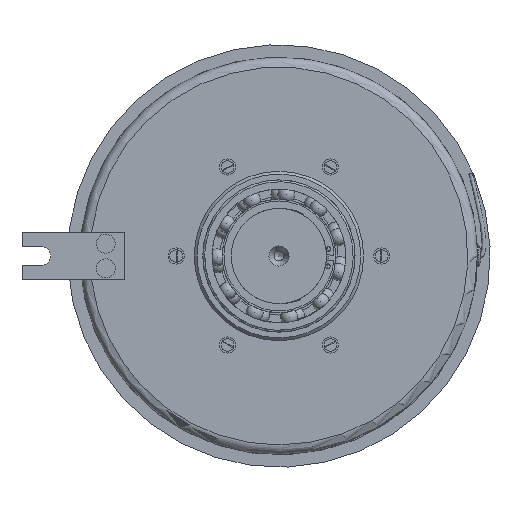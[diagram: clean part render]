
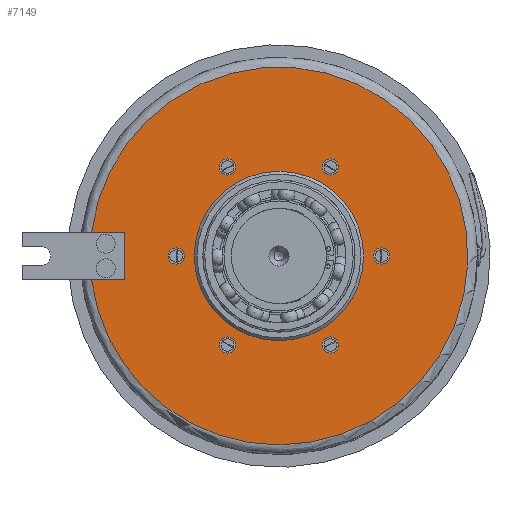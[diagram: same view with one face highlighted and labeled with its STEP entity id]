
A CAD part, left-side view. The second image highlights one B-rep face of the part: STEP entity #7149.
In plain terms, the highlighted planar face has unit normal (-1, 0, 0).
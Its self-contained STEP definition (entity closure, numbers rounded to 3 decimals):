
#121=FACE_BOUND('',#1666,.T.);
#122=FACE_BOUND('',#1667,.T.);
#123=FACE_BOUND('',#1668,.T.);
#124=FACE_BOUND('',#1669,.T.);
#125=FACE_BOUND('',#1670,.T.);
#126=FACE_BOUND('',#1671,.T.);
#127=FACE_BOUND('',#1672,.T.);
#283=LINE('',#11187,#556);
#300=LINE('',#11226,#573);
#304=LINE('',#11232,#577);
#556=VECTOR('',#8705,10.);
#573=VECTOR('',#8738,10.);
#577=VECTOR('',#8744,10.);
#839=PLANE('',#7651);
#1237=FACE_OUTER_BOUND('',#1665,.T.);
#1665=EDGE_LOOP('',(#5024,#5025,#5026,#5027,#5028));
#1666=EDGE_LOOP('',(#5029));
#1667=EDGE_LOOP('',(#5030));
#1668=EDGE_LOOP('',(#5031));
#1669=EDGE_LOOP('',(#5032));
#1670=EDGE_LOOP('',(#5033));
#1671=EDGE_LOOP('',(#5034));
#1672=EDGE_LOOP('',(#5035));
#2450=CIRCLE('',#7649,99.25);
#2451=CIRCLE('',#7650,99.25);
#2452=CIRCLE('',#7652,44.5);
#2453=CIRCLE('',#7653,4.25);
#2454=CIRCLE('',#7654,4.25);
#2455=CIRCLE('',#7655,4.25);
#2456=CIRCLE('',#7656,4.25);
#2457=CIRCLE('',#7657,4.25);
#2458=CIRCLE('',#7658,4.25);
#3060=VERTEX_POINT('',#11184);
#3061=VERTEX_POINT('',#11186);
#3074=VERTEX_POINT('',#11224);
#3075=VERTEX_POINT('',#11225);
#3092=VERTEX_POINT('',#11305);
#3093=VERTEX_POINT('',#11310);
#3094=VERTEX_POINT('',#11312);
#3095=VERTEX_POINT('',#11314);
#3096=VERTEX_POINT('',#11316);
#3097=VERTEX_POINT('',#11318);
#3098=VERTEX_POINT('',#11320);
#3099=VERTEX_POINT('',#11322);
#3796=EDGE_CURVE('',#3061,#3060,#283,.T.);
#3815=EDGE_CURVE('',#3074,#3075,#300,.T.);
#3819=EDGE_CURVE('',#3075,#3061,#304,.T.);
#3848=EDGE_CURVE('',#3092,#3060,#2450,.T.);
#3849=EDGE_CURVE('',#3074,#3092,#2451,.T.);
#3850=EDGE_CURVE('',#3093,#3093,#2452,.T.);
#3851=EDGE_CURVE('',#3094,#3094,#2453,.T.);
#3852=EDGE_CURVE('',#3095,#3095,#2454,.T.);
#3853=EDGE_CURVE('',#3096,#3096,#2455,.T.);
#3854=EDGE_CURVE('',#3097,#3097,#2456,.T.);
#3855=EDGE_CURVE('',#3098,#3098,#2457,.T.);
#3856=EDGE_CURVE('',#3099,#3099,#2458,.T.);
#5024=ORIENTED_EDGE('',*,*,#3796,.T.);
#5025=ORIENTED_EDGE('',*,*,#3848,.F.);
#5026=ORIENTED_EDGE('',*,*,#3849,.F.);
#5027=ORIENTED_EDGE('',*,*,#3815,.T.);
#5028=ORIENTED_EDGE('',*,*,#3819,.T.);
#5029=ORIENTED_EDGE('',*,*,#3850,.F.);
#5030=ORIENTED_EDGE('',*,*,#3851,.T.);
#5031=ORIENTED_EDGE('',*,*,#3852,.T.);
#5032=ORIENTED_EDGE('',*,*,#3853,.T.);
#5033=ORIENTED_EDGE('',*,*,#3854,.T.);
#5034=ORIENTED_EDGE('',*,*,#3855,.T.);
#5035=ORIENTED_EDGE('',*,*,#3856,.T.);
#7149=ADVANCED_FACE('',(#1237,#121,#122,#123,#124,#125,#126,#127),#839,
 .T.);
#7649=AXIS2_PLACEMENT_3D('',#11307,#8819,#8820);
#7650=AXIS2_PLACEMENT_3D('',#11308,#8821,#8822);
#7651=AXIS2_PLACEMENT_3D('',#11309,#8823,#8824);
#7652=AXIS2_PLACEMENT_3D('',#11311,#8825,#8826);
#7653=AXIS2_PLACEMENT_3D('',#11313,#8827,#8828);
#7654=AXIS2_PLACEMENT_3D('',#11315,#8829,#8830);
#7655=AXIS2_PLACEMENT_3D('',#11317,#8831,#8832);
#7656=AXIS2_PLACEMENT_3D('',#11319,#8833,#8834);
#7657=AXIS2_PLACEMENT_3D('',#11321,#8835,#8836);
#7658=AXIS2_PLACEMENT_3D('',#11323,#8837,#8838);
#8705=DIRECTION('',(0.,1.,0.));
#8738=DIRECTION('',(0.,-1.,0.));
#8744=DIRECTION('',(0.,0.,-1.));
#8819=DIRECTION('center_axis',(1.,0.,0.));
#8820=DIRECTION('ref_axis',(0.,1.,0.));
#8821=DIRECTION('center_axis',(1.,0.,0.));
#8822=DIRECTION('ref_axis',(0.,1.,0.));
#8823=DIRECTION('center_axis',(-1.,0.,0.));
#8824=DIRECTION('ref_axis',(0.,0.,
-1.));
#8825=DIRECTION('center_axis',(-1.,0.,0.));
#8826=DIRECTION('ref_axis',(0.,-0.5,-0.866));
#8827=DIRECTION('center_axis',(1.,0.,0.));
#8828=DIRECTION('ref_axis',(0.,0.,
-1.));
#8829=DIRECTION('center_axis',(1.,0.,0.));
#8830=DIRECTION('ref_axis',(0.,0.,
-1.));
#8831=DIRECTION('center_axis',(1.,0.,0.));
#8832=DIRECTION('ref_axis',(0.,0.,
-1.));
#8833=DIRECTION('center_axis',(1.,0.,0.));
#8834=DIRECTION('ref_axis',(0.,0.,
-1.));
#8835=DIRECTION('center_axis',(1.,0.,0.));
#8836=DIRECTION('ref_axis',(0.,0.,
-1.));
#8837=DIRECTION('center_axis',(1.,0.,0.));
#8838=DIRECTION('ref_axis',(0.,0.,
-1.));
#11184=CARTESIAN_POINT('',(-17.5,98.46,-12.5));
#11186=CARTESIAN_POINT('',(-17.5,81.,-12.5));
#11187=CARTESIAN_POINT('',(-17.5,30.313,-12.5));
#11224=CARTESIAN_POINT('',(-17.5,98.46,12.5));
#11225=CARTESIAN_POINT('',(-17.5,81.,12.5));
#11226=CARTESIAN_POINT('',(-17.5,3.313,12.5));
#11232=CARTESIAN_POINT('',(-17.5,81.,-6.25));
#11305=CARTESIAN_POINT('',(-17.5,0.,-99.25));
#11307=CARTESIAN_POINT('Origin',(-17.5,0.,
0.));
#11308=CARTESIAN_POINT('Origin',(-17.5,0.,
0.));
#11309=CARTESIAN_POINT('Origin',(-17.5,-74.375,0.));
#11310=CARTESIAN_POINT('',(-17.5,22.25,38.538));
#11311=CARTESIAN_POINT('Origin',(-17.5,0.,
0.));
#11312=CARTESIAN_POINT('',(-17.5,-54.,4.25));
#11313=CARTESIAN_POINT('Origin',(-17.5,-54.,0.));
#11314=CARTESIAN_POINT('',(-17.5,-27.,51.015));
#11315=CARTESIAN_POINT('Origin',(-17.5,-27.,46.765));
#11316=CARTESIAN_POINT('',(-17.5,27.,51.015));
#11317=CARTESIAN_POINT('Origin',(-17.5,27.,46.765));
#11318=CARTESIAN_POINT('',(-17.5,54.,4.25));
#11319=CARTESIAN_POINT('Origin',(-17.5,54.,0.));
#11320=CARTESIAN_POINT('',(-17.5,27.,-42.515));
#11321=CARTESIAN_POINT('Origin',(-17.5,27.,-46.765));
#11322=CARTESIAN_POINT('',(-17.5,-27.,-42.515));
#11323=CARTESIAN_POINT('Origin',(-17.5,-27.,-46.765));
